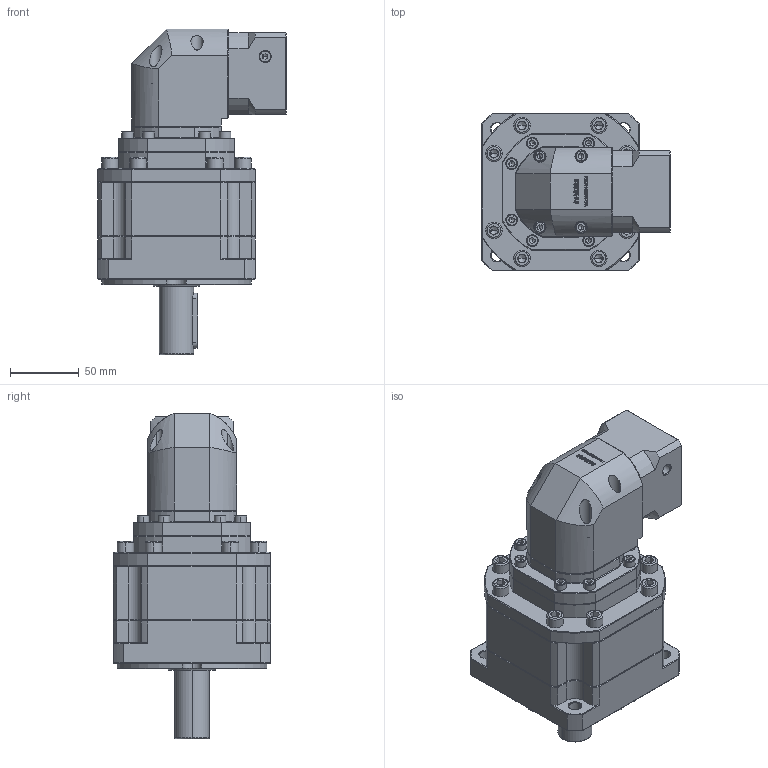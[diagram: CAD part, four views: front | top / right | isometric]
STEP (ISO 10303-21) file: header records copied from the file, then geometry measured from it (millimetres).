
FILE_DESCRIPTION (( 'STEP AP214' ), '1' );
FILE_NAME ('ZB115A-D25-L3-6.35-38.1-47.14x47.14-M4.step', '2023-03-03T08:02:52', ( '' ), ( 'Microsoft' ), 'SwSTEP 2.0', 'SolidWorks 2016', '' );
FILE_SCHEMA (( 'AUTOMOTIVE_DESIGN' ));
Length unit declared in the file: millimetre
Products named in the file (1): ZB115A-D25-L3-6.35-38.1-47.14x47.14-M4
Bounding box: 137.7 x 115 x 237.5 mm (x, y, z)
Volume: 1556521.5 mm3; surface area: 146242.4 mm2
Topology: 6 solids, 6 shells, 3234 faces, 8585 edges, 5514 vertices
Faces by surface type: plane 1720, bspline 637, cylinder 479, cone 390, torus 8
Entity records: 168338 total; most frequent: CARTESIAN_POINT 57325, ORIENTED_EDGE 17046, DIRECTION 13255, EDGE_CURVE 8523, VECTOR 5663, LINE 5663, VERTEX_POINT 5514, AXIS2_PLACEMENT_3D 3796
